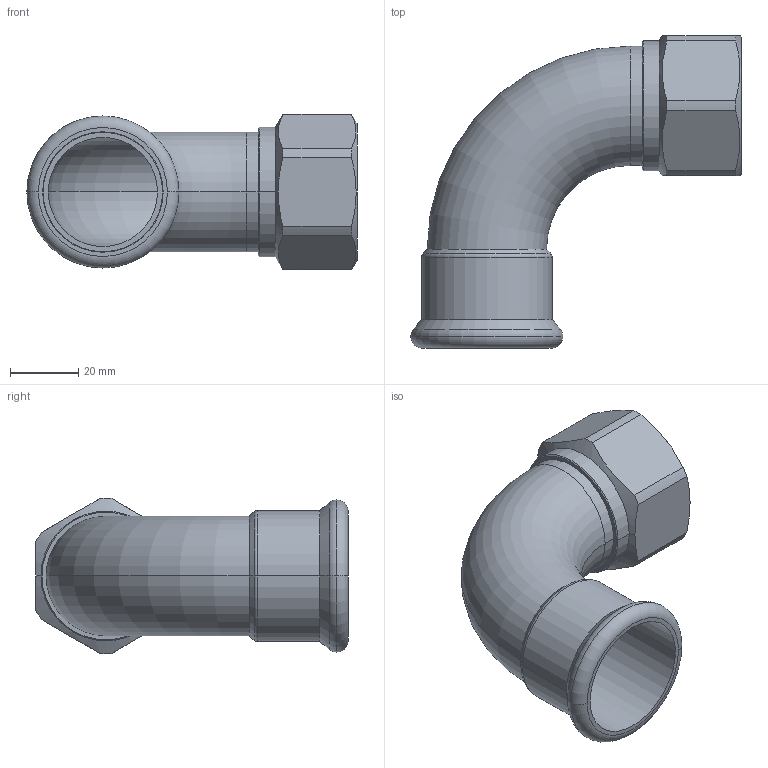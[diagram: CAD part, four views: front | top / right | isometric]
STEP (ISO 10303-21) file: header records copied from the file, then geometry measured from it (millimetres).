
FILE_DESCRIPTION(('CoCreate Modeling STEP Export'),'2;1');
FILE_NAME('C1438 35xRp3-4.stp','2014-11-12T16:39:18',(''),(''),'CoCreate Modeling STEP processor for AP214 (Solid Model)','CoCreate Modeling 17.00A 17-Jun-2010 (C) Parametric Technology GmbH','');
FILE_SCHEMA(('AUTOMOTIVE_DESIGN { 1 0 10303 214 1 1 1 1 }'));
Length unit declared in the file: millimetre
Products named in the file (2): C1438_35xRp3-4
Assembly tree (1 placements, depth 2):
  C1438_35xRp3-4
    C1438_35xRp3-4
Bounding box: 96.78 x 91.5 x 45.69 mm (x, y, z)
Volume: 42668.5 mm3; surface area: 30317.9 mm2
Topology: 1 solids, 1 shells, 59 faces, 133 edges, 81 vertices
Faces by surface type: cylinder 22, cone 14, plane 13, torus 10
Entity records: 2304 total; most frequent: CARTESIAN_POINT 1132, ORIENTED_EDGE 266, DIRECTION 192, EDGE_CURVE 133, VERTEX_POINT 81, AXIS2_PLACEMENT_3D 75, EDGE_LOOP 66, FACE_OUTER_BOUND 59
